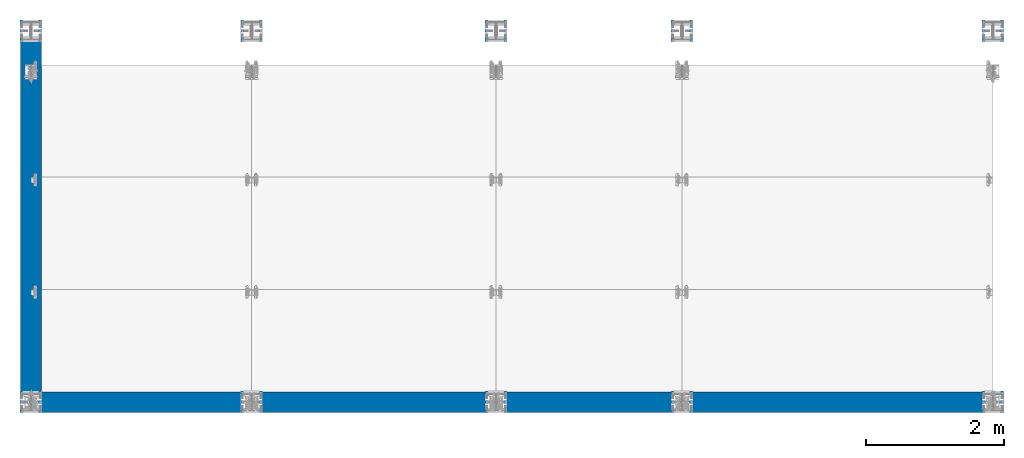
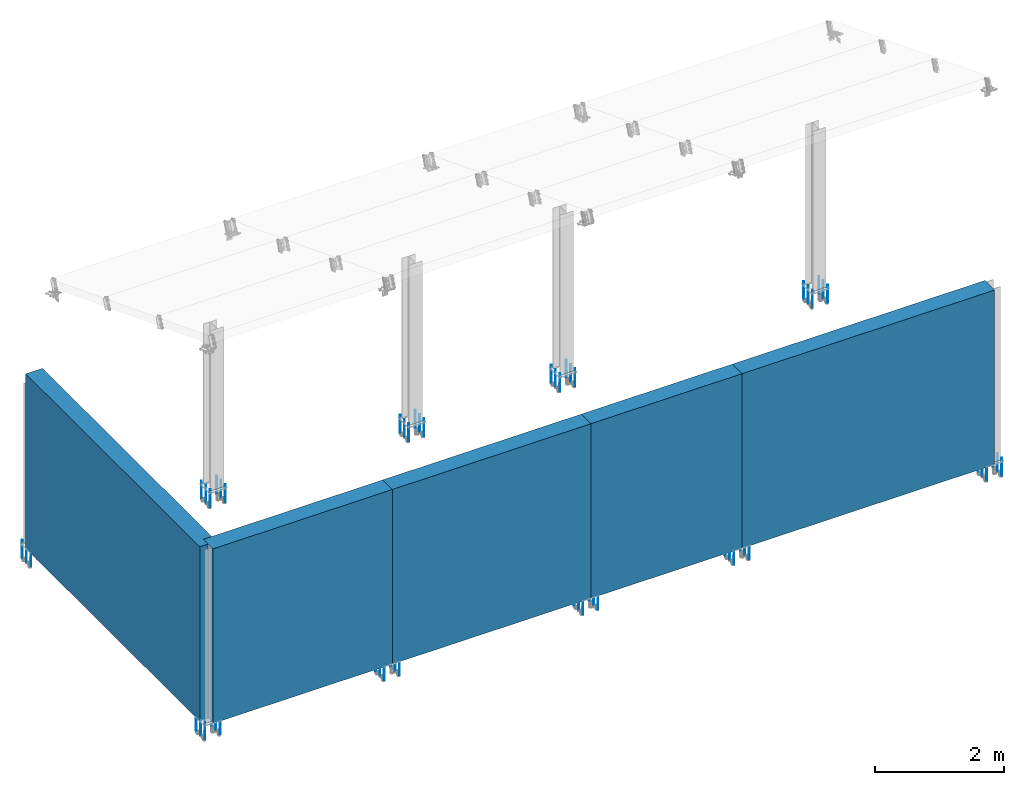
# One storey, part 8 of 72: 5 walls, 1 reinforcing bar.
"""IFC4 building model written with IfcOpenShell, lengths in metres."""

import ifcopenshell
import ifcopenshell.guid

model = None  # the IFC model being written
_history = None  # IfcOwnerHistory: only IFC2X3 demands one
_inside = {}  # id of a spatial element -> (the spatial element, [elements in it])
_under = {}  # id of a project, library or spatial element -> (it, [spatial elements below it])
_declared = {}  # id of a project -> (the project, [libraries it declares])
_typed = {}  # id of a type object -> (the type object, [elements of that type])
_made_of = {}  # id of a material, layer set ... -> (it, [elements and type objects made of it])


def new_model(schema):
    """Start an empty IFC model of exactly this schema.

    Asked for "IFC4X3", IfcOpenShell would pick the latest addendum, in which some entities
    have other attributes; the version numbers below select the first issue.
    IFC2X3 requires an IfcOwnerHistory on every rooted entity: one is made here for all.
    """
    global model, _history
    if schema == "IFC4X3":
        model = ifcopenshell.file(schema_version=(4, 3, 0, 0))
    else:
        model = ifcopenshell.file(schema=schema)
    _inside.clear()
    _under.clear()
    _declared.clear()
    _typed.clear()
    _made_of.clear()
    _history = None
    if model.schema == "IFC2X3":
        org = make("IfcOrganization", Name="unknown")
        user = make(
            "IfcPersonAndOrganization",
            ThePerson=make("IfcPerson", FamilyName="unknown"),
            TheOrganization=org,
        )
        app = make(
            "IfcApplication",
            ApplicationDeveloper=org,
            Version="unknown",
            ApplicationFullName="unknown",
            ApplicationIdentifier="unknown",
        )
        _history = make(
            "IfcOwnerHistory",
            OwningUser=user,
            OwningApplication=app,
            ChangeAction="ADDED",
            CreationDate=0,
        )
    return model


def make(cls, **values):
    """One entity of the class cls with the attributes given. An attribute that is None is left unset."""
    return model.create_entity(
        cls, **{name: value for name, value in values.items() if value is not None}
    )


def entity(cls, *values):
    """Any entity or typed value of the class cls, its attributes in the order of the schema. None: left unset."""
    e = model.create_entity(cls)
    for i, value in enumerate(values):
        if value is not None:
            e[i] = value
    return e


def rooted(cls, **values):
    """An entity with a GlobalId (a new one), such as an element, a storey or a relation."""
    return make(cls, GlobalId=ifcopenshell.guid.new(), OwnerHistory=_history, **values)


def si_unit(unit_type, name, prefix=None):
    """IfcSIUnit, for example si_unit("LENGTHUNIT", "METRE", prefix="MILLI")."""
    return make("IfcSIUnit", UnitType=unit_type, Prefix=prefix, Name=name)


def assignment(units):
    """IfcUnitAssignment: the units of a project."""
    return None if units is None else make("IfcUnitAssignment", Units=units)


def point(xyz):
    """IfcCartesianPoint."""
    return None if xyz is None else make("IfcCartesianPoint", Coordinates=xyz)


def direction(xyz):
    """IfcDirection."""
    return None if xyz is None else make("IfcDirection", DirectionRatios=xyz)


def frame(location, z_axis=None, x_axis=None):
    """IfcAxis2Placement3D, a coordinate frame: its origin and axes. An axis left out is left unset."""
    return make(
        "IfcAxis2Placement3D",
        Location=point(location),
        Axis=direction(z_axis),
        RefDirection=direction(x_axis),
    )


def origin_with_axes():
    """The frame at (0, 0, 0) with the z axis (0, 0, 1) and the x axis (1, 0, 0) written out."""
    return frame((0.0, 0.0, 0.0), z_axis=(0.0, 0.0, 1.0), x_axis=(1.0, 0.0, 0.0))


def place(relative_to, where):
    """IfcLocalPlacement: puts the frame where relative to a parent placement (None: the world)."""
    return make(
        "IfcLocalPlacement", PlacementRelTo=relative_to, RelativePlacement=where
    )


def context(
    kind, dimensions, precision=None, world=None, true_north=None, identifier=None
):
    """IfcGeometricRepresentationContext, for example the 3D "Model" context."""
    return make(
        "IfcGeometricRepresentationContext",
        ContextIdentifier=identifier,
        ContextType=kind,
        CoordinateSpaceDimension=dimensions,
        Precision=precision,
        WorldCoordinateSystem=world,
        TrueNorth=true_north,
    )


def project(units=None, contexts=None):
    """IfcProject with its units and contexts."""
    return rooted(
        "IfcProject",
        Name="project",
        RepresentationContexts=contexts,
        UnitsInContext=assignment(units),
    )


def spatial(cls, under=None, at=None, **own):
    """A site, building, storey or space (cls), placed at a placement, below another one or the project."""
    s = rooted(cls, ObjectPlacement=at, **own)
    if under is not None:
        _under.setdefault(under.id(), (under, []))[1].append(s)
    return s


def polyline(points):
    """IfcPolyline through the points."""
    return make("IfcPolyline", Points=[point(p) for p in points])


def outline(outer, holes=None, kind="AREA"):
    """IfcArbitraryClosedProfileDef: a profile drawn as a closed curve; with holes, ...WithVoids."""
    if holes is None:
        return make("IfcArbitraryClosedProfileDef", ProfileType=kind, OuterCurve=outer)
    return make(
        "IfcArbitraryProfileDefWithVoids",
        ProfileType=kind,
        OuterCurve=outer,
        InnerCurves=holes,
    )


def extrude(swept, where, along, depth):
    """IfcExtrudedAreaSolid: the profile swept, set in the frame where, extruded along a direction by depth."""
    return make(
        "IfcExtrudedAreaSolid",
        SweptArea=swept,
        Position=where,
        ExtrudedDirection=direction(along),
        Depth=depth,
    )


def shape(context_of_items, identifier, shape_type, items):
    """IfcShapeRepresentation: the items that make up one representation, for example the "Body"."""
    return make(
        "IfcShapeRepresentation",
        ContextOfItems=context_of_items,
        RepresentationIdentifier=identifier,
        RepresentationType=shape_type,
        Items=items,
    )


def source(mapping_origin, context_of_items, identifier, shape_type, items):
    """IfcRepresentationMap: a shape defined once, which mapped items show again and again."""
    return make(
        "IfcRepresentationMap",
        MappingOrigin=mapping_origin,
        MappedRepresentation=shape(context_of_items, identifier, shape_type, items),
    )


def transform(
    local_origin,
    x_axis=None,
    y_axis=None,
    z_axis=None,
    scale=None,
    scale2=None,
    scale3=None,
    uniform=True,
):
    """IfcCartesianTransformationOperator3D, or its non-uniform kind. x_axis, y_axis, z_axis: its Axis1, 2, 3."""
    if uniform:
        return make(
            "IfcCartesianTransformationOperator3D",
            Axis1=direction(x_axis),
            Axis2=direction(y_axis),
            LocalOrigin=point(local_origin),
            Scale=scale,
            Axis3=direction(z_axis),
        )
    return make(
        "IfcCartesianTransformationOperator3DnonUniform",
        Axis1=direction(x_axis),
        Axis2=direction(y_axis),
        LocalOrigin=point(local_origin),
        Scale=scale,
        Axis3=direction(z_axis),
        Scale2=scale2,
        Scale3=scale3,
    )


def mapped(mapping_source, mapping_target):
    """IfcMappedItem: shows the shape of a source again, moved by a transform."""
    return make(
        "IfcMappedItem", MappingSource=mapping_source, MappingTarget=mapping_target
    )


def material(Name=None, Category=None):
    """IfcMaterial."""
    return make("IfcMaterial", Name=Name, Category=Category)


def made_of(thing, what):
    """Note that an element or type object is made of a material, layer set ...; save() writes the relation."""
    if what is not None:
        _made_of.setdefault(what.id(), (what, []))[1].append(thing)
    return thing


def element(
    cls,
    number,
    at=None,
    inside=None,
    cuts=None,
    type_object=None,
    material=None,
    context=None,
    identifier="Body",
    shape_type=None,
    held_by="IfcProductDefinitionShape",
    body=None,
    shapes=None,
    **own,
):
    """One element of the class cls, such as IfcWall. Its Tag is "e" and its number.

    at: its placement. inside: the storey or other place that contains it. cuts: it is an
    opening in that element (IfcRelVoidsElement). A single representation is given by context,
    identifier, shape_type and body (its items); several are given by shapes. held_by: the class
    of the entity that holds the representations. save() writes the other relations.
    """
    e = rooted(cls, Tag="e%d" % number, ObjectPlacement=at, **own)
    if body is not None:
        shapes = [shape(context, identifier, shape_type, body)]
    if shapes is not None:
        e.Representation = make(held_by, Representations=shapes)
    if inside is not None:
        _inside.setdefault(inside.id(), (inside, []))[1].append(e)
    if cuts is not None:
        rooted(
            "IfcRelVoidsElement", RelatingBuildingElement=cuts, RelatedOpeningElement=e
        )
    if type_object is not None:
        _typed.setdefault(type_object.id(), (type_object, []))[1].append(e)
    return made_of(e, material)


def aggregate(whole, parts):
    """IfcRelAggregates: a whole, such as a stair, and the parts it consists of."""
    return rooted("IfcRelAggregates", RelatingObject=whole, RelatedObjects=parts)


def save(model, path):
    """Write the relations noted so far, then the file.

    IfcRelAggregates (storeys below a building ...), IfcRelContainedInSpatialStructure (elements
    in a storey), IfcRelDefinesByType, IfcRelAssociatesMaterial and IfcRelDeclares: one each for
    every whole, place, type object, material and project.
    """
    for whole, parts in _under.values():
        aggregate(whole, parts)
    for where, things in _inside.values():
        rooted(
            "IfcRelContainedInSpatialStructure",
            RelatedElements=things,
            RelatingStructure=where,
        )
    for kind, things in _typed.values():
        rooted("IfcRelDefinesByType", RelatedObjects=things, RelatingType=kind)
    for what, things in _made_of.values():
        rooted("IfcRelAssociatesMaterial", RelatedObjects=things, RelatingMaterial=what)
    for by, libraries in _declared.values():
        rooted("IfcRelDeclares", RelatingContext=by, RelatedDefinitions=libraries)
    model.write(path)


model = new_model("IFC4")

# Units and contexts
model_context = context("Model", 3, precision=1e-05, world=origin_with_axes())
ifc_project = project(units=[si_unit("LENGTHUNIT", "METRE"), si_unit("AREAUNIT", "SQUARE_METRE"), si_unit("VOLUMEUNIT", "CUBIC_METRE"), si_unit("MASSUNIT", "GRAM", prefix="KILO"), si_unit("TIMEUNIT", "SECOND"), si_unit("PLANEANGLEUNIT", "RADIAN"), si_unit("SOLIDANGLEUNIT", "STERADIAN"), si_unit("THERMODYNAMICTEMPERATUREUNIT", "DEGREE_CELSIUS")], contexts=[model_context])

# Site, building, storey
placement_1 = place(None, origin_with_axes())
site = spatial("IfcSite", under=ifc_project, at=placement_1, Name="Italia", CompositionType="ELEMENT")
building = spatial("IfcBuilding", under=site, at=placement_1, Name="Uffici", CompositionType="ELEMENT")
storey = spatial("IfcBuildingStorey", under=building, at=placement_1, Name="Storey 0", CompositionType="ELEMENT", Elevation=0.0)

# Walls
ifc_material_1 = material(Name="Steel", Category="Steel")
placement_2 = place(placement_1, origin_with_axes())
wall_1_placement = place(placement_2, origin_with_axes())
element("IfcWall", 1, at=wall_1_placement, inside=storey, material=ifc_material_1, Name="104", context=model_context, shape_type="SweptSolid", body=[
    extrude(outline(polyline([(0.0, 0.0), (4.515, 0.0), (4.515, 3.3), (0.0, 3.3), (0.0, 0.0)])), frame((9.455, 0.15, 0.0), z_axis=(0.0, -1.0, 0.0), x_axis=(1.0, 0.0, 0.0)), (0.0, 0.0, 1.0), 0.3),
])
ifc_material_2 = material(Name="Steel", Category="Steel")
wall_2_placement = place(placement_2, origin_with_axes())
element("IfcWall", 2, at=wall_2_placement, inside=storey, material=ifc_material_2, Name="103", context=model_context, shape_type="SweptSolid", body=[
    extrude(outline(polyline([(0.0, 0.0), (2.7, 0.0), (2.7, 3.3), (0.0, 3.3), (0.0, 0.0)])), frame((9.455, -0.15, 0.0), z_axis=(0.0, 1.0, 0.0), x_axis=(-1.0, 0.0, 0.0)), (0.0, 0.0, 1.0), 0.3),
])
ifc_material_3 = material(Name="Steel", Category="Steel")
wall_3_placement = place(placement_2, origin_with_axes())
element("IfcWall", 3, at=wall_3_placement, inside=storey, material=ifc_material_3, Name="102", context=model_context, shape_type="SweptSolid", body=[
    extrude(outline(polyline([(0.0, 0.0), (3.55, 0.0), (3.55, 3.3), (0.0, 3.3), (0.0, 0.0)])), frame((6.755, -0.15, 0.0), z_axis=(0.0, 1.0, 0.0), x_axis=(-1.0, 0.0, 0.0)), (0.0, 0.0, 1.0), 0.3),
])
ifc_material_4 = material(Name="Steel", Category="Steel")
wall_4_placement = place(placement_2, origin_with_axes())
element("IfcWall", 4, at=wall_4_placement, inside=storey, material=ifc_material_4, Name="101", context=model_context, shape_type="SweptSolid", body=[
    extrude(outline(polyline([(0.0, 0.0), (3.205, 0.0), (3.205, 3.3), (0.0, 3.3), (0.0, 0.0)])), frame((3.205, -0.15, 0.0), z_axis=(0.0, 1.0, 0.0), x_axis=(-1.0, 0.0, 0.0)), (0.0, 0.0, 1.0), 0.3),
])
ifc_material_5 = material(Name="Steel", Category="Steel")
wall_5_placement = place(placement_2, origin_with_axes())
element("IfcWall", 5, at=wall_5_placement, inside=storey, material=ifc_material_5, Name="106", context=model_context, shape_type="SweptSolid", body=[
    extrude(outline(polyline([(0.0, 0.0), (5.39, 0.0), (5.39, 3.3), (4.9, 3.3), (3.59333, 3.3), (2.695, 3.3), (1.79667, 3.3), (0.0, 3.3), (0.0, 0.0)])), frame((-0.15, 0.0, 0.0), z_axis=(1.0, 0.0, 0.0), x_axis=(0.0, 1.0, 0.0)), (0.0, 0.0, 1.0), 0.3),
])

# Reinforcing bar
shared_shape = source(origin_with_axes(), model_context, "Body", "AdvancedSweptSolid", [
    entity("IfcSweptDiskSolid", entity("IfcIndexedPolyCurve", entity("IfcCartesianPointList3D", [[-0.135, -0.135, 0.07], [-0.135, -0.135, -0.258]]), [entity("IfcLineIndex", [1, 2])], False), 0.006),
])
reinforcing_bar_placement = place(placement_2, origin_with_axes())
element("IfcReinforcingBar", 6, at=reinforcing_bar_placement, inside=storey, BarLength=0.328, CrossSectionArea=0.0001131, NominalDiameter=0.012, context=model_context, shape_type="MappedRepresentation", body=[
    mapped(shared_shape, transform((7.025, 5.39, 0.0), x_axis=(1.0, 0.0, 0.0), y_axis=(0.0, 1.0, 0.0), z_axis=(0.0, 0.0, 1.0), scale=1.0)),
    mapped(shared_shape, transform((6.755, 5.39, 0.0), x_axis=(1.0, 0.0, 0.0), y_axis=(0.0, 1.0, 0.0), z_axis=(0.0, 0.0, 1.0), scale=1.0)),
    mapped(shared_shape, transform((3.475, 5.66, 0.0), x_axis=(1.0, 0.0, 0.0), y_axis=(0.0, 1.0, 0.0), z_axis=(0.0, 0.0, 1.0), scale=1.0)),
    mapped(shared_shape, transform((3.475, 5.525, 0.0), x_axis=(1.0, 0.0, 0.0), y_axis=(0.0, 1.0, 0.0), z_axis=(0.0, 0.0, 1.0), scale=1.0)),
    mapped(shared_shape, transform((3.205, 5.525, 0.0), x_axis=(1.0, 0.0, 0.0), y_axis=(0.0, 1.0, 0.0), z_axis=(0.0, 0.0, 1.0), scale=1.0)),
    mapped(shared_shape, transform((6.755, 5.525, 0.0), x_axis=(1.0, 0.0, 0.0), y_axis=(0.0, 1.0, 0.0), z_axis=(0.0, 0.0, 1.0), scale=1.0)),
    mapped(shared_shape, transform((0.27, 5.66, 0.0), x_axis=(1.0, 0.0, 0.0), y_axis=(0.0, 1.0, 0.0), z_axis=(0.0, 0.0, 1.0), scale=1.0)),
    mapped(shared_shape, transform((0.0, 5.66, 0.0), x_axis=(1.0, 0.0, 0.0), y_axis=(0.0, 1.0, 0.0), z_axis=(0.0, 0.0, 1.0), scale=1.0)),
    mapped(shared_shape, transform((3.205, 5.66, 0.0), x_axis=(1.0, 0.0, 0.0), y_axis=(0.0, 1.0, 0.0), z_axis=(0.0, 0.0, 1.0), scale=1.0)),
    mapped(shared_shape, transform((0.27, 5.39, 0.0), x_axis=(1.0, 0.0, 0.0), y_axis=(0.0, 1.0, 0.0), z_axis=(0.0, 0.0, 1.0), scale=1.0)),
    mapped(shared_shape, transform((3.475, 5.39, 0.0), x_axis=(1.0, 0.0, 0.0), y_axis=(0.0, 1.0, 0.0), z_axis=(0.0, 0.0, 1.0), scale=1.0)),
    mapped(shared_shape, transform((3.205, 5.39, 0.0), x_axis=(1.0, 0.0, 0.0), y_axis=(0.0, 1.0, 0.0), z_axis=(0.0, 0.0, 1.0), scale=1.0)),
    mapped(shared_shape, transform((14.24, 5.525, 0.0), x_axis=(1.0, 0.0, 0.0), y_axis=(0.0, 1.0, 0.0), z_axis=(0.0, 0.0, 1.0), scale=1.0)),
    mapped(shared_shape, transform((0.27, 5.525, 0.0), x_axis=(1.0, 0.0, 0.0), y_axis=(0.0, 1.0, 0.0), z_axis=(0.0, 0.0, 1.0), scale=1.0)),
    mapped(shared_shape, transform((0.0, 5.525, 0.0), x_axis=(1.0, 0.0, 0.0), y_axis=(0.0, 1.0, 0.0), z_axis=(0.0, 0.0, 1.0), scale=1.0)),
    mapped(shared_shape, transform((0.0, 5.39, 0.0), x_axis=(1.0, 0.0, 0.0), y_axis=(0.0, 1.0, 0.0), z_axis=(0.0, 0.0, 1.0), scale=1.0)),
    mapped(shared_shape, transform((14.24, 5.66, 0.0), x_axis=(1.0, 0.0, 0.0), y_axis=(0.0, 1.0, 0.0), z_axis=(0.0, 0.0, 1.0), scale=1.0)),
    mapped(shared_shape, transform((13.97, 5.66, 0.0), x_axis=(1.0, 0.0, 0.0), y_axis=(0.0, 1.0, 0.0), z_axis=(0.0, 0.0, 1.0), scale=1.0)),
    mapped(shared_shape, transform((13.97, 5.525, 0.0), x_axis=(1.0, 0.0, 0.0), y_axis=(0.0, 1.0, 0.0), z_axis=(0.0, 0.0, 1.0), scale=1.0)),
    mapped(shared_shape, transform((14.24, 5.39, 0.0), x_axis=(1.0, 0.0, 0.0), y_axis=(0.0, 1.0, 0.0), z_axis=(0.0, 0.0, 1.0), scale=1.0)),
    mapped(shared_shape, transform((13.97, 5.39, 0.0), x_axis=(1.0, 0.0, 0.0), y_axis=(0.0, 1.0, 0.0), z_axis=(0.0, 0.0, 1.0), scale=1.0)),
    mapped(shared_shape, transform((9.455, 5.66, 0.0), x_axis=(1.0, 0.0, 0.0), y_axis=(0.0, 1.0, 0.0), z_axis=(0.0, 0.0, 1.0), scale=1.0)),
    mapped(shared_shape, transform((9.725, 5.525, 0.0), x_axis=(1.0, 0.0, 0.0), y_axis=(0.0, 1.0, 0.0), z_axis=(0.0, 0.0, 1.0), scale=1.0)),
    mapped(shared_shape, transform((9.455, 5.525, 0.0), x_axis=(1.0, 0.0, 0.0), y_axis=(0.0, 1.0, 0.0), z_axis=(0.0, 0.0, 1.0), scale=1.0)),
    mapped(shared_shape, transform((9.455, 5.39, 0.0), x_axis=(1.0, 0.0, 0.0), y_axis=(0.0, 1.0, 0.0), z_axis=(0.0, 0.0, 1.0), scale=1.0)),
    mapped(shared_shape, transform((7.025, 5.66, 0.0), x_axis=(1.0, 0.0, 0.0), y_axis=(0.0, 1.0, 0.0), z_axis=(0.0, 0.0, 1.0), scale=1.0)),
    mapped(shared_shape, transform((9.725, 5.66, 0.0), x_axis=(1.0, 0.0, 0.0), y_axis=(0.0, 1.0, 0.0), z_axis=(0.0, 0.0, 1.0), scale=1.0)),
    mapped(shared_shape, transform((6.755, 0.135, 0.0), x_axis=(1.0, 0.0, 0.0), y_axis=(0.0, 1.0, 0.0), z_axis=(0.0, 0.0, 1.0), scale=1.0)),
    mapped(shared_shape, transform((7.025, 0.0, 0.0), x_axis=(1.0, 0.0, 0.0), y_axis=(0.0, 1.0, 0.0), z_axis=(0.0, 0.0, 1.0), scale=1.0)),
    mapped(shared_shape, transform((9.725, 5.39, 0.0), x_axis=(1.0, 0.0, 0.0), y_axis=(0.0, 1.0, 0.0), z_axis=(0.0, 0.0, 1.0), scale=1.0)),
    mapped(shared_shape, transform((3.205, 0.27, 0.0), x_axis=(1.0, 0.0, 0.0), y_axis=(0.0, 1.0, 0.0), z_axis=(0.0, 0.0, 1.0), scale=1.0)),
    mapped(shared_shape, transform((6.755, 5.66, 0.0), x_axis=(1.0, 0.0, 0.0), y_axis=(0.0, 1.0, 0.0), z_axis=(0.0, 0.0, 1.0), scale=1.0)),
    mapped(shared_shape, transform((7.025, 5.525, 0.0), x_axis=(1.0, 0.0, 0.0), y_axis=(0.0, 1.0, 0.0), z_axis=(0.0, 0.0, 1.0), scale=1.0)),
    mapped(shared_shape, transform((3.205, 0.0, 0.0), x_axis=(1.0, 0.0, 0.0), y_axis=(0.0, 1.0, 0.0), z_axis=(0.0, 0.0, 1.0), scale=1.0)),
    mapped(shared_shape, transform((6.755, 0.0, 0.0), x_axis=(1.0, 0.0, 0.0), y_axis=(0.0, 1.0, 0.0), z_axis=(0.0, 0.0, 1.0), scale=1.0)),
    mapped(shared_shape, transform((3.475, 0.27, 0.0), x_axis=(1.0, 0.0, 0.0), y_axis=(0.0, 1.0, 0.0), z_axis=(0.0, 0.0, 1.0), scale=1.0)),
    mapped(shared_shape, transform((3.475, 0.135, 0.0), x_axis=(1.0, 0.0, 0.0), y_axis=(0.0, 1.0, 0.0), z_axis=(0.0, 0.0, 1.0), scale=1.0)),
    mapped(shared_shape, transform((3.205, 0.135, 0.0), x_axis=(1.0, 0.0, 0.0), y_axis=(0.0, 1.0, 0.0), z_axis=(0.0, 0.0, 1.0), scale=1.0)),
    mapped(shared_shape, transform((3.475, 0.0, 0.0), x_axis=(1.0, 0.0, 0.0), y_axis=(0.0, 1.0, 0.0), z_axis=(0.0, 0.0, 1.0), scale=1.0)),
    mapped(shared_shape, transform((0.27, 0.27, 0.0), x_axis=(1.0, 0.0, 0.0), y_axis=(0.0, 1.0, 0.0), z_axis=(0.0, 0.0, 1.0), scale=1.0)),
    mapped(shared_shape, transform((0.0, 0.27, 0.0), x_axis=(1.0, 0.0, 0.0), y_axis=(0.0, 1.0, 0.0), z_axis=(0.0, 0.0, 1.0), scale=1.0)),
    mapped(shared_shape, transform((0.27, 0.135, 0.0), x_axis=(1.0, 0.0, 0.0), y_axis=(0.0, 1.0, 0.0), z_axis=(0.0, 0.0, 1.0), scale=1.0)),
    mapped(shared_shape, transform((0.27, 0.0, 0.0), x_axis=(1.0, 0.0, 0.0), y_axis=(0.0, 1.0, 0.0), z_axis=(0.0, 0.0, 1.0), scale=1.0)),
    mapped(shared_shape, transform((0.0, 0.0, 0.0), x_axis=(1.0, 0.0, 0.0), y_axis=(0.0, 1.0, 0.0), z_axis=(0.0, 0.0, 1.0), scale=1.0)),
    mapped(shared_shape, transform((14.24, 0.27, 0.0), x_axis=(1.0, 0.0, 0.0), y_axis=(0.0, 1.0, 0.0), z_axis=(0.0, 0.0, 1.0), scale=1.0)),
    mapped(shared_shape, transform((14.24, 0.135, 0.0), x_axis=(1.0, 0.0, 0.0), y_axis=(0.0, 1.0, 0.0), z_axis=(0.0, 0.0, 1.0), scale=1.0)),
    mapped(shared_shape, transform((13.97, 0.135, 0.0), x_axis=(1.0, 0.0, 0.0), y_axis=(0.0, 1.0, 0.0), z_axis=(0.0, 0.0, 1.0), scale=1.0)),
    mapped(shared_shape, transform((0.0, 0.135, 0.0), x_axis=(1.0, 0.0, 0.0), y_axis=(0.0, 1.0, 0.0), z_axis=(0.0, 0.0, 1.0), scale=1.0)),
    mapped(shared_shape, transform((9.725, 0.27, 0.0), x_axis=(1.0, 0.0, 0.0), y_axis=(0.0, 1.0, 0.0), z_axis=(0.0, 0.0, 1.0), scale=1.0)),
    mapped(shared_shape, transform((9.455, 0.27, 0.0), x_axis=(1.0, 0.0, 0.0), y_axis=(0.0, 1.0, 0.0), z_axis=(0.0, 0.0, 1.0), scale=1.0)),
    mapped(shared_shape, transform((13.97, 0.27, 0.0), x_axis=(1.0, 0.0, 0.0), y_axis=(0.0, 1.0, 0.0), z_axis=(0.0, 0.0, 1.0), scale=1.0)),
    mapped(shared_shape, transform((9.725, 0.0, 0.0), x_axis=(1.0, 0.0, 0.0), y_axis=(0.0, 1.0, 0.0), z_axis=(0.0, 0.0, 1.0), scale=1.0)),
    mapped(shared_shape, transform((14.24, 0.0, 0.0), x_axis=(1.0, 0.0, 0.0), y_axis=(0.0, 1.0, 0.0), z_axis=(0.0, 0.0, 1.0), scale=1.0)),
    mapped(shared_shape, transform((13.97, 0.0, 0.0), x_axis=(1.0, 0.0, 0.0), y_axis=(0.0, 1.0, 0.0), z_axis=(0.0, 0.0, 1.0), scale=1.0)),
    mapped(shared_shape, transform((7.025, 0.135, 0.0), x_axis=(1.0, 0.0, 0.0), y_axis=(0.0, 1.0, 0.0), z_axis=(0.0, 0.0, 1.0), scale=1.0)),
    mapped(shared_shape, transform((9.725, 0.135, 0.0), x_axis=(1.0, 0.0, 0.0), y_axis=(0.0, 1.0, 0.0), z_axis=(0.0, 0.0, 1.0), scale=1.0)),
    mapped(shared_shape, transform((9.455, 0.135, 0.0), x_axis=(1.0, 0.0, 0.0), y_axis=(0.0, 1.0, 0.0), z_axis=(0.0, 0.0, 1.0), scale=1.0)),
    mapped(shared_shape, transform((9.455, 0.0, 0.0), x_axis=(1.0, 0.0, 0.0), y_axis=(0.0, 1.0, 0.0), z_axis=(0.0, 0.0, 1.0), scale=1.0)),
    mapped(shared_shape, transform((7.025, 0.27, 0.0), x_axis=(1.0, 0.0, 0.0), y_axis=(0.0, 1.0, 0.0), z_axis=(0.0, 0.0, 1.0), scale=1.0)),
    mapped(shared_shape, transform((6.755, 0.27, 0.0), x_axis=(1.0, 0.0, 0.0), y_axis=(0.0, 1.0, 0.0), z_axis=(0.0, 0.0, 1.0), scale=1.0)),
])

save(model, "model.ifc")
